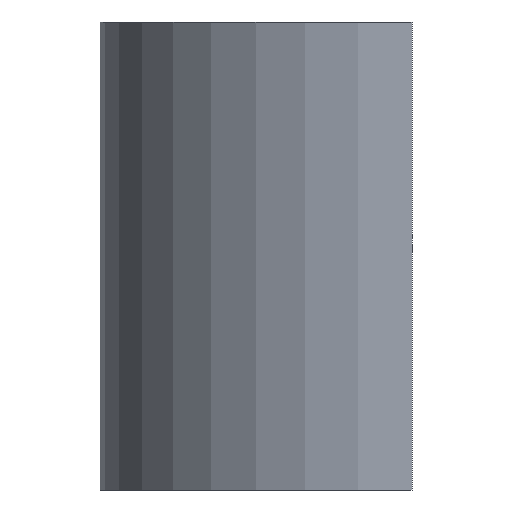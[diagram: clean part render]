
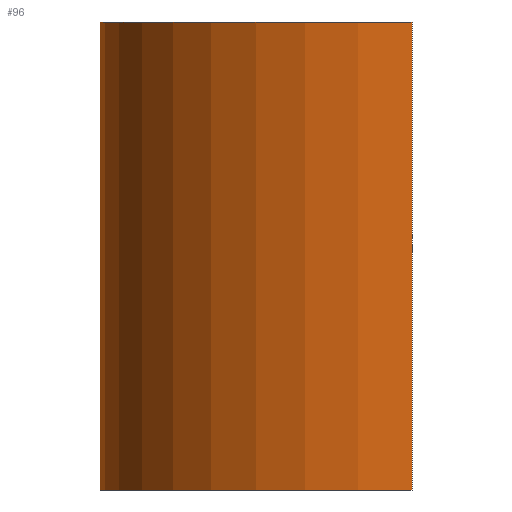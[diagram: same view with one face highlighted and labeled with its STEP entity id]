
A CAD part, left-side view. The second image highlights one B-rep face of the part: STEP entity #96.
In plain terms, the highlighted cylindrical face has radius 4 mm (diameter 8 mm), a partial arc.
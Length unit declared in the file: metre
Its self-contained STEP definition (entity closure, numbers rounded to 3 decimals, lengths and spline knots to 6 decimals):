
#12=CIRCLE('',#116,0.004);
#13=CIRCLE('',#117,0.004);
#16=CYLINDRICAL_SURFACE('',#115,0.004);
#26=ORIENTED_EDGE('',*,*,#50,.F.);
#27=ORIENTED_EDGE('',*,*,#44,.F.);
#28=ORIENTED_EDGE('',*,*,#51,.T.);
#29=ORIENTED_EDGE('',*,*,#49,.T.);
#44=EDGE_CURVE('',#56,#57,#64,.T.);
#49=EDGE_CURVE('',#58,#61,#69,.T.);
#50=EDGE_CURVE('',#57,#61,#12,.T.);
#51=EDGE_CURVE('',#56,#58,#13,.T.);
#56=VERTEX_POINT('',#159);
#57=VERTEX_POINT('',#161);
#58=VERTEX_POINT('',#165);
#61=VERTEX_POINT('',#170);
#64=LINE('',#160,#72);
#69=LINE('',#171,#77);
#72=VECTOR('',#129,1.);
#77=VECTOR('',#136,1.);
#80=EDGE_LOOP('',(#26,#27,#28,#29));
#86=FACE_BOUND('',#80,.T.);
#96=ADVANCED_FACE('',(#86),#16,.T.);
#115=AXIS2_PLACEMENT_3D('',#172,#137,#138);
#116=AXIS2_PLACEMENT_3D('',#173,#139,#140);
#117=AXIS2_PLACEMENT_3D('',#174,#141,#142);
#129=DIRECTION('',(0.,0.,1.));
#136=DIRECTION('',(0.,0.,1.));
#137=DIRECTION('',(0.,0.,1.));
#138=DIRECTION('',(1.,0.,0.));
#139=DIRECTION('',(0.,0.,1.));
#140=DIRECTION('',(1.,0.,0.));
#141=DIRECTION('',(0.,0.,1.));
#142=DIRECTION('',(1.,0.,0.));
#159=CARTESIAN_POINT('',(-0.050052,-0.06664,0.018));
#160=CARTESIAN_POINT('',(-0.050052,-0.06664,0.018));
#161=CARTESIAN_POINT('',(-0.050052,-0.06664,0.024));
#165=CARTESIAN_POINT('',(-0.054052,-0.07064,0.018));
#170=CARTESIAN_POINT('',(-0.054052,-0.07064,0.024));
#171=CARTESIAN_POINT('',(-0.054052,-0.07064,0.018));
#172=CARTESIAN_POINT('',(-0.050052,-0.07064,0.018));
#173=CARTESIAN_POINT('',(-0.050052,-0.07064,0.024));
#174=CARTESIAN_POINT('',(-0.050052,-0.07064,0.018));
